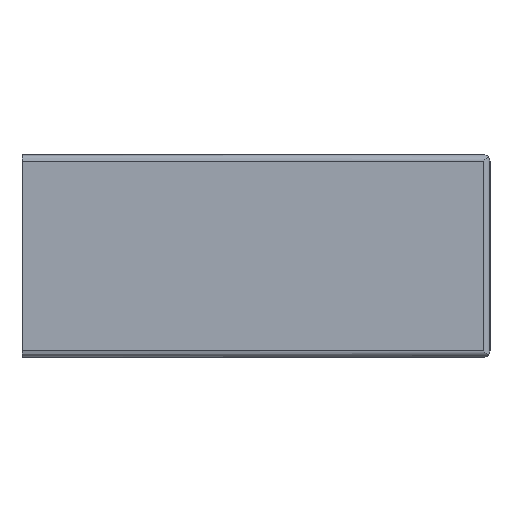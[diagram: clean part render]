
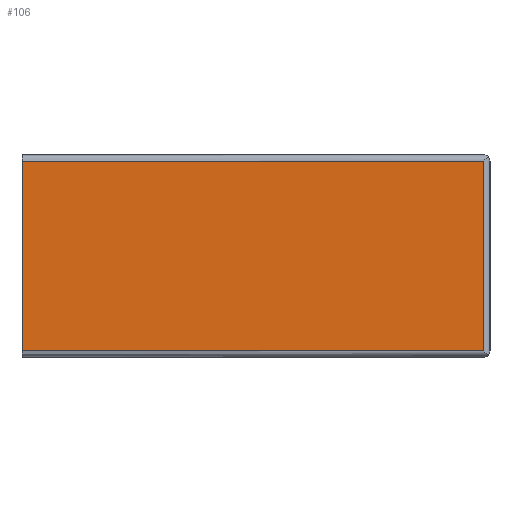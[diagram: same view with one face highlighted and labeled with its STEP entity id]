
A CAD part, left-side view. The second image highlights one B-rep face of the part: STEP entity #106.
In plain terms, the highlighted planar face has unit normal (-1, 0, 0).
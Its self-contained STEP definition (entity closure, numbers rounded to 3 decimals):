
#106 = ADVANCED_FACE( '', ( #216 ), #217, .F. );
#216 = FACE_OUTER_BOUND( '', #329, .T. );
#217 = PLANE( '', #330 );
#329 = EDGE_LOOP( '', ( #567, #568, #569, #570 ) );
#330 = AXIS2_PLACEMENT_3D( '', #571, #572, #573 );
#567 = ORIENTED_EDGE( '', *, *, #725, .F. );
#568 = ORIENTED_EDGE( '', *, *, #678, .T. );
#569 = ORIENTED_EDGE( '', *, *, #756, .T. );
#570 = ORIENTED_EDGE( '', *, *, #689, .F. );
#571 = CARTESIAN_POINT( '', ( -7.5, 0., 8. ) );
#572 = DIRECTION( '', ( 1., 0., 0. ) );
#573 = DIRECTION( '', ( 0., 0., -1. ) );
#678 = EDGE_CURVE( '', #799, #806, #808, .T. );
#689 = EDGE_CURVE( '', #824, #826, #827, .T. );
#725 = EDGE_CURVE( '', #799, #824, #884, .T. );
#756 = EDGE_CURVE( '', #806, #826, #920, .T. );
#799 = VERTEX_POINT( '', #969 );
#806 = VERTEX_POINT( '', #977 );
#808 = LINE( '', #979, #980 );
#824 = VERTEX_POINT( '', #1003 );
#826 = VERTEX_POINT( '', #1005 );
#827 = LINE( '', #1006, #1007 );
#884 = LINE( '', #1083, #1084 );
#920 = LINE( '', #1130, #1131 );
#969 = CARTESIAN_POINT( '', ( -7.5, -36.5, 7.5 ) );
#977 = CARTESIAN_POINT( '', ( -7.5, 0., 7.5 ) );
#979 = CARTESIAN_POINT( '', ( -7.5, -75., 7.5 ) );
#980 = VECTOR( '', #1190, 1000. );
#1003 = CARTESIAN_POINT( '', ( -7.5, -36.5, -7.5 ) );
#1005 = CARTESIAN_POINT( '', ( -7.5, 0., -7.5 ) );
#1006 = CARTESIAN_POINT( '', ( -7.5, -75., -7.5 ) );
#1007 = VECTOR( '', #1201, 1000. );
#1083 = CARTESIAN_POINT( '', ( -7.5, -36.5, 8. ) );
#1084 = VECTOR( '', #1245, 1000. );
#1130 = CARTESIAN_POINT( '', ( -7.5, 0., 8. ) );
#1131 = VECTOR( '', #1283, 1000. );
#1190 = DIRECTION( '', ( 0., 1., 0. ) );
#1201 = DIRECTION( '', ( 0., 1., 0. ) );
#1245 = DIRECTION( '', ( 0., 0., -1. ) );
#1283 = DIRECTION( '', ( 0., 0., -1. ) );
